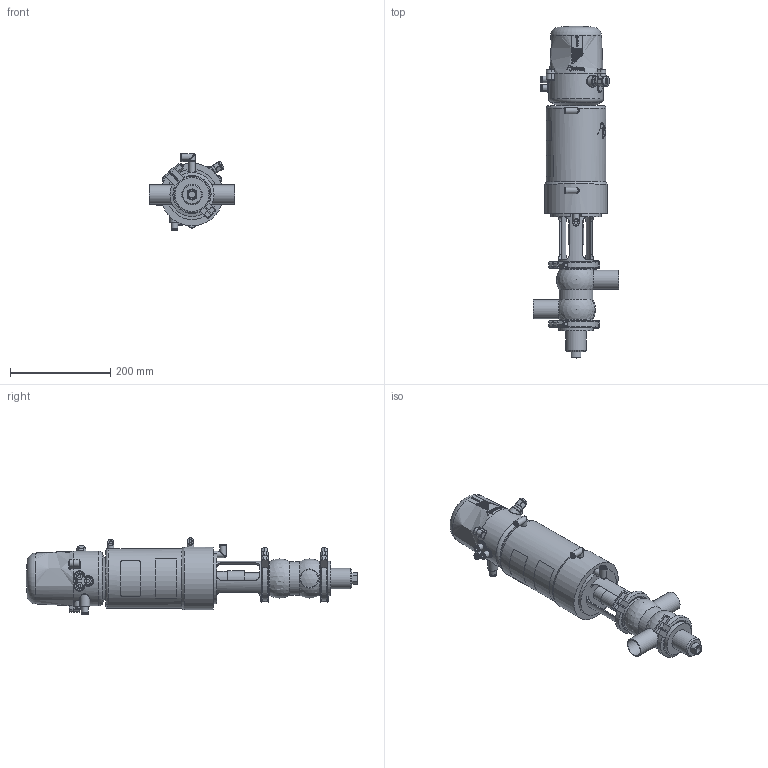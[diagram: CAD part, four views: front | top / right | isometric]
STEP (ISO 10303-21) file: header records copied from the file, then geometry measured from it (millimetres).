
FILE_DESCRIPTION (( 'STEP AP214' ), '1' );
FILE_NAME ('INNOVA P DC-180 W OD 1½ & C-TOP S_10.250.16.0019.STEP', '2024-08-08T12:22:43', ( '' ), ( '' ), 'SwSTEP 2.0', 'SolidWorks 2023', '' );
FILE_SCHEMA (( 'AUTOMOTIVE_DESIGN' ));
Length unit declared in the file: millimetre
Products named in the file (7): 10.250.15.0003_DN 1½"; 10.250.15.0001_OD 1½"; 10.426.15.0001_C-TOP S - 3 EV; 10.251.15.0011_OD 1½"; 10.240.15.0001_DN 040; INNOVA P DC-180 W OD 1½ & C-TOP S_10.250.16.0019; 10.250.15.0002_Type P T1
Assembly tree (7 placements, depth 2):
  INNOVA P DC-180 W OD 1½ & C-TOP S_10.250.16.0019
    10.250.15.0001_OD 1½"
    10.250.15.0002_Type P T1
    10.426.15.0001_C-TOP S - 3 EV
    10.251.15.0011_OD 1½"
    10.240.15.0001_DN 040  x2
    10.250.15.0003_DN 1½"
Bounding box: 170 x 661.7 x 152 mm (x, y, z)
Volume: 4736597.2 mm3; surface area: 353771 mm2
Topology: 7 solids, 7 shells, 1204 faces, 2898 edges, 1925 vertices
Faces by surface type: plane 413, cylinder 383, cone 204, bspline 163, torus 33, sphere 8
Full cylindrical faces by diameter (mm): 0.371 x17, 0.512 x16, 0.658 x16, 0.795 x16, 0.94 x15, 1.098 x15, 1.241 x13, 1.382 x13, 1.523 x11, 1.669 x10, 2.201 x1, 4.2 x2, 5 x1, 5.5 x2, 6 x4, 6.15 x3, 8 x5, 10 x1, 10.5 x3, 11 x4, 12.5 x9, 13 x6, 13.5 x2, 14 x1, 17 x3, 20 x2, 22 x2, 23 x1, 28 x1, 31.5 x1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
Entity records: 59003 total; most frequent: CARTESIAN_POINT 27669, ORIENTED_EDGE 4610, DIRECTION 3753, EDGE_CURVE 2305, VERTEX_POINT 1642, EDGE_LOOP 1623, AXIS2_PLACEMENT_3D 1543, FACE_OUTER_BOUND 1371
